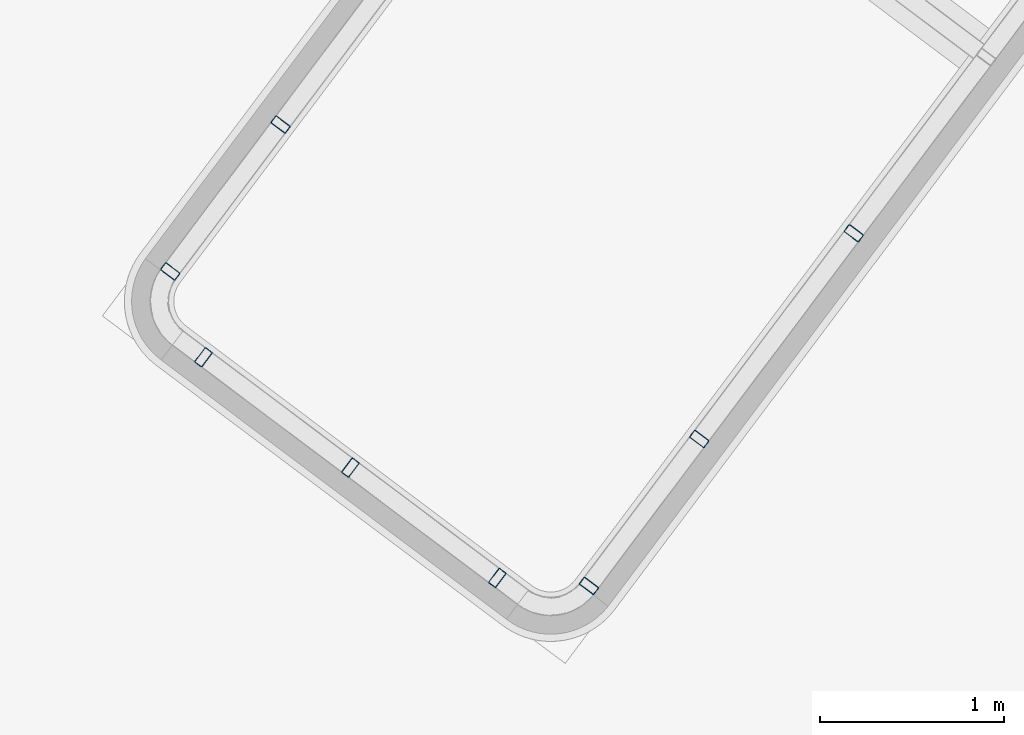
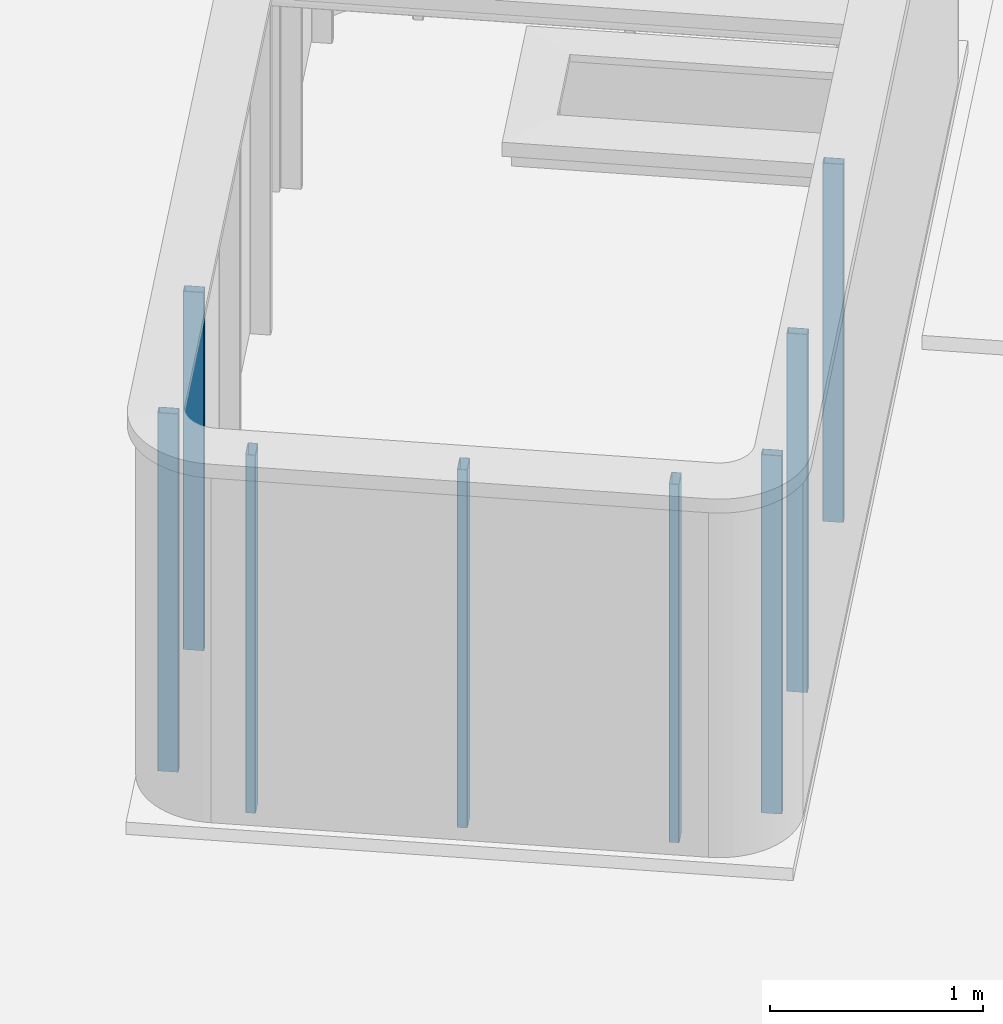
# One storey, part 2 of 28: 8 columns.
"""IFC2X3 building model written with IfcOpenShell, lengths in metres."""

import ifcopenshell
import ifcopenshell.guid

model = None  # the IFC model being written
_history = None  # IfcOwnerHistory: only IFC2X3 demands one
_inside = {}  # id of a spatial element -> (the spatial element, [elements in it])
_under = {}  # id of a project, library or spatial element -> (it, [spatial elements below it])
_declared = {}  # id of a project -> (the project, [libraries it declares])
_typed = {}  # id of a type object -> (the type object, [elements of that type])
_made_of = {}  # id of a material, layer set ... -> (it, [elements and type objects made of it])


def new_model(schema):
    """Start an empty IFC model of exactly this schema.

    Asked for "IFC4X3", IfcOpenShell would pick the latest addendum, in which some entities
    have other attributes; the version numbers below select the first issue.
    IFC2X3 requires an IfcOwnerHistory on every rooted entity: one is made here for all.
    """
    global model, _history
    if schema == "IFC4X3":
        model = ifcopenshell.file(schema_version=(4, 3, 0, 0))
    else:
        model = ifcopenshell.file(schema=schema)
    _inside.clear()
    _under.clear()
    _declared.clear()
    _typed.clear()
    _made_of.clear()
    _history = None
    if model.schema == "IFC2X3":
        org = make("IfcOrganization", Name="unknown")
        user = make(
            "IfcPersonAndOrganization",
            ThePerson=make("IfcPerson", FamilyName="unknown"),
            TheOrganization=org,
        )
        app = make(
            "IfcApplication",
            ApplicationDeveloper=org,
            Version="unknown",
            ApplicationFullName="unknown",
            ApplicationIdentifier="unknown",
        )
        _history = make(
            "IfcOwnerHistory",
            OwningUser=user,
            OwningApplication=app,
            ChangeAction="ADDED",
            CreationDate=0,
        )
    return model


def make(cls, **values):
    """One entity of the class cls with the attributes given. An attribute that is None is left unset."""
    return model.create_entity(
        cls, **{name: value for name, value in values.items() if value is not None}
    )


def entity(cls, *values):
    """Any entity or typed value of the class cls, its attributes in the order of the schema. None: left unset."""
    e = model.create_entity(cls)
    for i, value in enumerate(values):
        if value is not None:
            e[i] = value
    return e


def rooted(cls, **values):
    """An entity with a GlobalId (a new one), such as an element, a storey or a relation."""
    return make(cls, GlobalId=ifcopenshell.guid.new(), OwnerHistory=_history, **values)


def si_unit(unit_type, name, prefix=None):
    """IfcSIUnit, for example si_unit("LENGTHUNIT", "METRE", prefix="MILLI")."""
    return make("IfcSIUnit", UnitType=unit_type, Prefix=prefix, Name=name)


def converted_unit(unit_type, name, factor, base, dimensions=None, offset=None):
    """IfcConversionBasedUnit, such as the inch: factor (a typed value) times the base unit."""
    return make(
        "IfcConversionBasedUnit"
        if offset is None
        else "IfcConversionBasedUnitWithOffset",
        ConversionOffset=offset,
        Dimensions=None
        if dimensions is None
        else entity("IfcDimensionalExponents", *dimensions),
        UnitType=unit_type,
        Name=name,
        ConversionFactor=make(
            "IfcMeasureWithUnit", ValueComponent=factor, UnitComponent=base
        ),
    )


def derived_unit(unit_type, elements):
    """IfcDerivedUnit: a product of units, each with its exponent."""
    return make(
        "IfcDerivedUnit",
        Elements=[
            make("IfcDerivedUnitElement", Unit=unit, Exponent=power)
            for unit, power in elements
        ],
        UnitType=unit_type,
    )


def assignment(units):
    """IfcUnitAssignment: the units of a project."""
    return None if units is None else make("IfcUnitAssignment", Units=units)


def point(xyz):
    """IfcCartesianPoint."""
    return None if xyz is None else make("IfcCartesianPoint", Coordinates=xyz)


def direction(xyz):
    """IfcDirection."""
    return None if xyz is None else make("IfcDirection", DirectionRatios=xyz)


def frame(location, z_axis=None, x_axis=None):
    """IfcAxis2Placement3D, a coordinate frame: its origin and axes. An axis left out is left unset."""
    return make(
        "IfcAxis2Placement3D",
        Location=point(location),
        Axis=direction(z_axis),
        RefDirection=direction(x_axis),
    )


def frame_2d(location, x_axis=None):
    """IfcAxis2Placement2D, a coordinate frame in the plane: its origin and x axis."""
    return make(
        "IfcAxis2Placement2D", Location=point(location), RefDirection=direction(x_axis)
    )


def origin():
    """The frame at (0, 0, 0) with its axes left unset."""
    return frame((0.0, 0.0, 0.0))


def place(relative_to, where):
    """IfcLocalPlacement: puts the frame where relative to a parent placement (None: the world)."""
    return make(
        "IfcLocalPlacement", PlacementRelTo=relative_to, RelativePlacement=where
    )


def context(
    kind, dimensions, precision=None, world=None, true_north=None, identifier=None
):
    """IfcGeometricRepresentationContext, for example the 3D "Model" context."""
    return make(
        "IfcGeometricRepresentationContext",
        ContextIdentifier=identifier,
        ContextType=kind,
        CoordinateSpaceDimension=dimensions,
        Precision=precision,
        WorldCoordinateSystem=world,
        TrueNorth=true_north,
    )


def subcontext(parent, identifier, kind, view, scale=None):
    """IfcGeometricRepresentationSubContext, for example "Body" below "Model"."""
    return make(
        "IfcGeometricRepresentationSubContext",
        ContextIdentifier=identifier,
        ContextType=kind,
        ParentContext=parent,
        TargetScale=scale,
        TargetView=view,
    )


def project(units=None, contexts=None):
    """IfcProject with its units and contexts."""
    return rooted(
        "IfcProject",
        Name="project",
        RepresentationContexts=contexts,
        UnitsInContext=assignment(units),
    )


def spatial(cls, under=None, at=None, **own):
    """A site, building, storey or space (cls), placed at a placement, below another one or the project."""
    s = rooted(cls, ObjectPlacement=at, **own)
    if under is not None:
        _under.setdefault(under.id(), (under, []))[1].append(s)
    return s


def polyline(points):
    """IfcPolyline through the points."""
    return make("IfcPolyline", Points=[point(p) for p in points])


def circle_curve(where, radius):
    """IfcCircle in the frame where."""
    return make("IfcCircle", Position=where, Radius=radius)


def parameter(value):
    """IfcParameterValue: where a trimmed curve begins or ends, as a parameter of its basis curve."""
    return model.create_entity("IfcParameterValue", value)


def trimmed(basis, trim1, trim2, sense, master):
    """IfcTrimmedCurve: the piece of a basis curve between two trims."""
    return make(
        "IfcTrimmedCurve",
        BasisCurve=basis,
        Trim1=trim1,
        Trim2=trim2,
        SenseAgreement=sense,
        MasterRepresentation=master,
    )


def segment(curve, same_sense, transition):
    """IfcCompositeCurveSegment."""
    return make(
        "IfcCompositeCurveSegment",
        Transition=transition,
        SameSense=same_sense,
        ParentCurve=curve,
    )


def composite_curve(segments, self_intersect=None):
    """IfcCompositeCurve: segments joined end to end."""
    return make("IfcCompositeCurve", Segments=segments, SelfIntersect=self_intersect)


def outline(outer, holes=None, kind="AREA"):
    """IfcArbitraryClosedProfileDef: a profile drawn as a closed curve; with holes, ...WithVoids."""
    if holes is None:
        return make("IfcArbitraryClosedProfileDef", ProfileType=kind, OuterCurve=outer)
    return make(
        "IfcArbitraryProfileDefWithVoids",
        ProfileType=kind,
        OuterCurve=outer,
        InnerCurves=holes,
    )


def extrude(swept, where, along, depth):
    """IfcExtrudedAreaSolid: the profile swept, set in the frame where, extruded along a direction by depth."""
    return make(
        "IfcExtrudedAreaSolid",
        SweptArea=swept,
        Position=where,
        ExtrudedDirection=direction(along),
        Depth=depth,
    )


def shape(context_of_items, identifier, shape_type, items):
    """IfcShapeRepresentation: the items that make up one representation, for example the "Body"."""
    return make(
        "IfcShapeRepresentation",
        ContextOfItems=context_of_items,
        RepresentationIdentifier=identifier,
        RepresentationType=shape_type,
        Items=items,
    )


def source(mapping_origin, context_of_items, identifier, shape_type, items):
    """IfcRepresentationMap: a shape defined once, which mapped items show again and again."""
    return make(
        "IfcRepresentationMap",
        MappingOrigin=mapping_origin,
        MappedRepresentation=shape(context_of_items, identifier, shape_type, items),
    )


def transform(
    local_origin,
    x_axis=None,
    y_axis=None,
    z_axis=None,
    scale=None,
    scale2=None,
    scale3=None,
    uniform=True,
):
    """IfcCartesianTransformationOperator3D, or its non-uniform kind. x_axis, y_axis, z_axis: its Axis1, 2, 3."""
    if uniform:
        return make(
            "IfcCartesianTransformationOperator3D",
            Axis1=direction(x_axis),
            Axis2=direction(y_axis),
            LocalOrigin=point(local_origin),
            Scale=scale,
            Axis3=direction(z_axis),
        )
    return make(
        "IfcCartesianTransformationOperator3DnonUniform",
        Axis1=direction(x_axis),
        Axis2=direction(y_axis),
        LocalOrigin=point(local_origin),
        Scale=scale,
        Axis3=direction(z_axis),
        Scale2=scale2,
        Scale3=scale3,
    )


def mapped(mapping_source, mapping_target):
    """IfcMappedItem: shows the shape of a source again, moved by a transform."""
    return make(
        "IfcMappedItem", MappingSource=mapping_source, MappingTarget=mapping_target
    )


def material(Name=None, Category=None):
    """IfcMaterial."""
    return make("IfcMaterial", Name=Name, Category=Category)


def made_of(thing, what):
    """Note that an element or type object is made of a material, layer set ...; save() writes the relation."""
    if what is not None:
        _made_of.setdefault(what.id(), (what, []))[1].append(thing)
    return thing


def type_object(cls, material=None, **own):
    """A type object (cls), such as IfcWallType, which elements share."""
    return made_of(rooted(cls, **own), material)


def type_shapes(of_type, sources):
    """Give a type object the sources (RepresentationMaps) that its elements show as mapped items."""
    of_type.RepresentationMaps = sources


def element(
    cls,
    number,
    at=None,
    inside=None,
    cuts=None,
    type_object=None,
    material=None,
    context=None,
    identifier="Body",
    shape_type=None,
    held_by="IfcProductDefinitionShape",
    body=None,
    shapes=None,
    **own,
):
    """One element of the class cls, such as IfcWall. Its Tag is "e" and its number.

    at: its placement. inside: the storey or other place that contains it. cuts: it is an
    opening in that element (IfcRelVoidsElement). A single representation is given by context,
    identifier, shape_type and body (its items); several are given by shapes. held_by: the class
    of the entity that holds the representations. save() writes the other relations.
    """
    e = rooted(cls, Tag="e%d" % number, ObjectPlacement=at, **own)
    if body is not None:
        shapes = [shape(context, identifier, shape_type, body)]
    if shapes is not None:
        e.Representation = make(held_by, Representations=shapes)
    if inside is not None:
        _inside.setdefault(inside.id(), (inside, []))[1].append(e)
    if cuts is not None:
        rooted(
            "IfcRelVoidsElement", RelatingBuildingElement=cuts, RelatedOpeningElement=e
        )
    if type_object is not None:
        _typed.setdefault(type_object.id(), (type_object, []))[1].append(e)
    return made_of(e, material)


def aggregate(whole, parts):
    """IfcRelAggregates: a whole, such as a stair, and the parts it consists of."""
    return rooted("IfcRelAggregates", RelatingObject=whole, RelatedObjects=parts)


def save(model, path):
    """Write the relations noted so far, then the file.

    IfcRelAggregates (storeys below a building ...), IfcRelContainedInSpatialStructure (elements
    in a storey), IfcRelDefinesByType, IfcRelAssociatesMaterial and IfcRelDeclares: one each for
    every whole, place, type object, material and project.
    """
    for whole, parts in _under.values():
        aggregate(whole, parts)
    for where, things in _inside.values():
        rooted(
            "IfcRelContainedInSpatialStructure",
            RelatedElements=things,
            RelatingStructure=where,
        )
    for kind, things in _typed.values():
        rooted("IfcRelDefinesByType", RelatedObjects=things, RelatingType=kind)
    for what, things in _made_of.values():
        rooted("IfcRelAssociatesMaterial", RelatedObjects=things, RelatingMaterial=what)
    for by, libraries in _declared.values():
        rooted("IfcRelDeclares", RelatingContext=by, RelatedDefinitions=libraries)
    model.write(path)


model = new_model("IFC2X3")

# Units and contexts
model_context = context("Model", 3, precision=1e-05, world=origin(), true_north=direction((6.123031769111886e-17, 1.0)))
body_context = subcontext(model_context, "Body", "Model", "MODEL_VIEW")
ifc_project = project(units=[si_unit("LENGTHUNIT", "METRE"), si_unit("AREAUNIT", "SQUARE_METRE"), si_unit("VOLUMEUNIT", "CUBIC_METRE"), converted_unit("PLANEANGLEUNIT", "DEGREE", entity("IfcRatioMeasure", 0.017453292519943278), si_unit("PLANEANGLEUNIT", "RADIAN"), dimensions=[0, 0, 0, 0, 0, 0, 0]), si_unit("MASSUNIT", "GRAM", prefix="KILO"), derived_unit("MASSDENSITYUNIT", [(si_unit("MASSUNIT", "GRAM", prefix="KILO"), 1), (si_unit("LENGTHUNIT", "METRE"), -3)]), derived_unit("IONCONCENTRATIONUNIT", [(si_unit("MASSUNIT", "GRAM", prefix="KILO"), 1), (si_unit("LENGTHUNIT", "METRE"), -3)]), derived_unit("MOMENTOFINERTIAUNIT", [(si_unit("LENGTHUNIT", "METRE"), 4)]), si_unit("TIMEUNIT", "SECOND"), si_unit("FREQUENCYUNIT", "HERTZ"), si_unit("THERMODYNAMICTEMPERATUREUNIT", "DEGREE_CELSIUS"), derived_unit("THERMALTRANSMITTANCEUNIT", [(si_unit("MASSUNIT", "GRAM", prefix="KILO"), 1), (si_unit("THERMODYNAMICTEMPERATUREUNIT", "KELVIN"), -1), (si_unit("TIMEUNIT", "SECOND"), -3)]), derived_unit("THERMALCONDUCTANCEUNIT", [(si_unit("MASSUNIT", "GRAM", prefix="KILO"), 1), (si_unit("THERMODYNAMICTEMPERATUREUNIT", "KELVIN"), -1), (si_unit("TIMEUNIT", "SECOND"), -3), (si_unit("LENGTHUNIT", "METRE"), 1)]), derived_unit("VOLUMETRICFLOWRATEUNIT", [(si_unit("LENGTHUNIT", "METRE"), 3), (si_unit("TIMEUNIT", "SECOND"), -1)]), derived_unit("MASSFLOWRATEUNIT", [(si_unit("MASSUNIT", "GRAM", prefix="KILO"), 1), (si_unit("TIMEUNIT", "SECOND"), -1)]), derived_unit("ROTATIONALFREQUENCYUNIT", [(si_unit("TIMEUNIT", "SECOND"), -1)]), si_unit("ELECTRICCURRENTUNIT", "AMPERE"), si_unit("ELECTRICVOLTAGEUNIT", "VOLT"), si_unit("POWERUNIT", "WATT"), si_unit("FORCEUNIT", "NEWTON", prefix="KILO"), si_unit("ILLUMINANCEUNIT", "LUX"), si_unit("LUMINOUSFLUXUNIT", "LUMEN"), si_unit("LUMINOUSINTENSITYUNIT", "CANDELA"), derived_unit("USERDEFINED", [(si_unit("MASSUNIT", "GRAM", prefix="KILO"), -1), (si_unit("LENGTHUNIT", "METRE"), -2), (si_unit("TIMEUNIT", "SECOND"), 3), (si_unit("LUMINOUSFLUXUNIT", "LUMEN"), 1)]), derived_unit("USERDEFINED", [(si_unit("MASSUNIT", "GRAM", prefix="KILO"), 1), (si_unit("TIMEUNIT", "SECOND"), -3), (si_unit("LENGTHUNIT", "METRE"), 3), (si_unit("ELECTRICCURRENTUNIT", "AMPERE"), -2)]), derived_unit("SOUNDPOWERUNIT", [(si_unit("MASSUNIT", "GRAM", prefix="KILO"), 1), (si_unit("TIMEUNIT", "SECOND"), -3), (si_unit("LENGTHUNIT", "METRE"), 2)]), derived_unit("SOUNDPRESSUREUNIT", [(si_unit("MASSUNIT", "GRAM", prefix="KILO"), 1), (si_unit("LENGTHUNIT", "METRE"), -1), (si_unit("TIMEUNIT", "SECOND"), -2)]), derived_unit("LINEARVELOCITYUNIT", [(si_unit("LENGTHUNIT", "METRE"), 1), (si_unit("TIMEUNIT", "SECOND"), -1)]), si_unit("PRESSUREUNIT", "PASCAL"), derived_unit("USERDEFINED", [(si_unit("MASSUNIT", "GRAM", prefix="KILO"), 1), (si_unit("LENGTHUNIT", "METRE"), -2), (si_unit("TIMEUNIT", "SECOND"), -2)]), derived_unit("LINEARFORCEUNIT", [(si_unit("MASSUNIT", "GRAM", prefix="KILO"), 1), (si_unit("TIMEUNIT", "SECOND"), -2)]), derived_unit("PLANARFORCEUNIT", [(si_unit("MASSUNIT", "GRAM", prefix="KILO"), 1), (si_unit("LENGTHUNIT", "METRE"), -1), (si_unit("TIMEUNIT", "SECOND"), -2)]), derived_unit("SPECIFICHEATCAPACITYUNIT", [(si_unit("THERMODYNAMICTEMPERATUREUNIT", "KELVIN"), -1), (si_unit("LENGTHUNIT", "METRE"), 2), (si_unit("TIMEUNIT", "SECOND"), -2)]), derived_unit("HEATINGVALUEUNIT", [(si_unit("LENGTHUNIT", "METRE"), 2), (si_unit("TIMEUNIT", "SECOND"), -2)]), derived_unit("VAPORPERMEABILITYUNIT", [(si_unit("LENGTHUNIT", "METRE"), -1), (si_unit("TIMEUNIT", "SECOND"), 1)]), derived_unit("DYNAMICVISCOSITYUNIT", [(si_unit("MASSUNIT", "GRAM", prefix="KILO"), 1), (si_unit("TIMEUNIT", "SECOND"), -1), (si_unit("LENGTHUNIT", "METRE"), -1)]), derived_unit("THERMALEXPANSIONCOEFFICIENTUNIT", [(si_unit("THERMODYNAMICTEMPERATUREUNIT", "KELVIN"), -1)]), derived_unit("MODULUSOFELASTICITYUNIT", [(si_unit("MASSUNIT", "GRAM", prefix="KILO"), 1), (si_unit("LENGTHUNIT", "METRE"), -1), (si_unit("TIMEUNIT", "SECOND"), -2)]), derived_unit("ISOTHERMALMOISTURECAPACITYUNIT", [(si_unit("LENGTHUNIT", "METRE"), 3), (si_unit("MASSUNIT", "GRAM", prefix="KILO"), -1)]), derived_unit("MOISTUREDIFFUSIVITYUNIT", [(si_unit("TIMEUNIT", "SECOND"), -1), (si_unit("LENGTHUNIT", "METRE"), 2)])], contexts=[model_context])

# Site, building, storey
site_placement = place(None, frame((0.0, 0.0, 235.0), z_axis=(0.0, 0.0, 1.0), x_axis=(-0.7996477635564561, 0.6004693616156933, 0.0)))
site = spatial("IfcSite", under=ifc_project, at=site_placement, Name="Default", CompositionType="ELEMENT")
building_placement = place(site_placement, origin())
building = spatial("IfcBuilding", under=site, at=building_placement, CompositionType="ELEMENT")
storey_placement = place(building_placement, frame((0.0, 0.0, 3.400000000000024)))
storey = spatial("IfcBuildingStorey", under=building, at=storey_placement, Name="PC- Coberta STR", CompositionType="ELEMENT", Elevation=3.400000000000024)

# Columns
ifc_material = material(Name="Metal - Acero - 345 MPa")
column_type = type_object("IfcColumnType", Name="STR- P- Acer- RHS- Rectangular- T1:100 x 50RHS", PredefinedType="COLUMN", material=ifc_material)
shared_shape = source(origin(), body_context, "Body", "SweptSolid", [
    extrude(outline(composite_curve([segment(polyline([(-0.01900000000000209, -0.04999999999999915), (0.019000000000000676, -0.04999999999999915)]), True, "CONTINUOUS"), segment(trimmed(circle_curve(frame_2d((0.019000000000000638, -0.04400000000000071), x_axis=(-1.0, 0.0)), 0.005999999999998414), [parameter(90.00000000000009)], [parameter(180.0000000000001)], True, "PARAMETER"), True, "CONTINUOUS"), segment(polyline([(0.024999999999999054, -0.044000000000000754), (0.02499999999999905, 0.044000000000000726)]), True, "CONTINUOUS"), segment(trimmed(circle_curve(frame_2d((0.018999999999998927, 0.044000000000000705), x_axis=(-1.0, 0.0)), 0.006000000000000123), [parameter(179.9999999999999)], [parameter(269.99999999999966)], True, "PARAMETER"), True, "CONTINUOUS"), segment(polyline([(0.018999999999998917, 0.05000000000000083), (-0.01899999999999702, 0.050000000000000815)]), True, "CONTINUOUS"), segment(trimmed(circle_curve(frame_2d((-0.018999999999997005, 0.043999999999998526), x_axis=(-1.0, 0.0)), 0.006000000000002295), [parameter(269.99999999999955)], [parameter(359.9999999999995)], True, "PARAMETER"), True, "CONTINUOUS"), segment(polyline([(-0.024999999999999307, 0.04399999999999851), (-0.024999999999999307, -0.04400000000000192)]), True, "CONTINUOUS"), segment(trimmed(circle_curve(frame_2d((-0.019000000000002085, -0.04400000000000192), x_axis=(-1.0, 0.0)), 0.005999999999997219), [parameter(359.9999999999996)], [parameter(89.99999999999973)], True, "PARAMETER"), True, "CONTINUOUS")], self_intersect=False), holes=[composite_curve([segment(trimmed(circle_curve(frame_2d((-0.019000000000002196, -0.044000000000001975), x_axis=(-1.0, 0.0)), 0.0029999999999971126), [parameter(0.0)], [parameter(90.00000000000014)], True, "PARAMETER"), False, "CONTINUOUS"), segment(polyline([(-0.021999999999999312, -0.044000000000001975), (-0.021999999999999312, 0.04400000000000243)]), True, "CONTINUOUS"), segment(trimmed(circle_curve(frame_2d((-0.019000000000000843, 0.04400000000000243), x_axis=(-1.0, 0.0)), 0.00299999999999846), [parameter(269.99999999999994)], [parameter(0.0)], True, "PARAMETER"), False, "CONTINUOUS"), segment(polyline([(-0.01900000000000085, 0.0470000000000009), (0.01899999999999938, 0.04700000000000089)]), True, "CONTINUOUS"), segment(trimmed(circle_curve(frame_2d((0.018999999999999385, 0.04399999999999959), x_axis=(-1.0, 0.0)), 0.0030000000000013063), [parameter(179.99999999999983)], [parameter(270.0)], True, "PARAMETER"), False, "CONTINUOUS"), segment(polyline([(0.022000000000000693, 0.04399999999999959), (0.022000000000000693, -0.04399999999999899)]), True, "CONTINUOUS"), segment(trimmed(circle_curve(frame_2d((0.019000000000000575, -0.043999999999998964), x_axis=(-1.0, 0.0)), 0.0030000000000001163), [parameter(90.00000000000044)], [parameter(180.0000000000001)], True, "PARAMETER"), False, "CONTINUOUS"), segment(polyline([(0.019000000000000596, -0.04699999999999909), (-0.019000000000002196, -0.04699999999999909)]), True, "CONTINUOUS")], self_intersect=False)]), frame((0.02658749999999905, 0.051587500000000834, 0.0), z_axis=(0.0, 0.0, 1.0), x_axis=(-1.0, 0.0, 0.0)), (0.0, 0.0, 1.0), 2.05),
])
type_shapes(column_type, [shared_shape])
for number, where, z_axis, x_axis, name in (
    (1, (47.10845862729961, -32.26767308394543, 0.4), (0.0, 0.0, 1.0), (0.0, -1.0, 0.0), "STR- P- Acer- RHS- Rectangular- T1:100 x 50RHS"),
    (2, (46.76163360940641, -30.977673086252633, 0.4), (0.0, 0.0, 1.0), (-1.0, 0.0, 0.0), "STR- P- Acer- RHS- Rectangular- T1:100 x 50RHS"),
    (3, (45.7616336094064, -30.977673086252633, 0.4), (0.0, 0.0, 1.0), (-1.0, 0.0, 0.0), "STR- P- Acer- RHS- Rectangular- T1:100 x 50RHS"),
    (4, (44.761633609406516, -30.977673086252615, 0.4), (0.0, 0.0, 1.0), (-1.0, 0.0, 0.0), "STR- P- Acer- RHS- Rectangular- T1:100 x 50RHS"),
    (5, (47.10845862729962, -31.267673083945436, 0.4), (0.0, 0.0, 1.0), (0.0, -1.0, 0.0), "STR- P- Acer- RHS- Rectangular- T1:100 x 50RHS"),
    (6, (44.25845855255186, -32.26767308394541, 0.4), (0.0, 0.0, 1.0), (0.0, -1.0, 0.0), "STR- P- Acer- RHS- Rectangular- T1:100 x 50RHS"),
    (7, (44.258458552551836, -33.66767308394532, 0.4), (0.0, 0.0, 1.0), (0.0, -1.0, 0.0), "STR- P- Acer- RHS- Rectangular- T1:100 x 50RHS"),
    (8, (44.25845855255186, -31.26767308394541, 0.4), (0.0, 0.0, 1.0), (0.0, -1.0, 0.0), "STR- P- Acer- RHS- Rectangular- T1:100 x 50RHS"),
):
    element("IfcColumn", number, at=place(storey_placement, frame(where, z_axis=z_axis, x_axis=x_axis)), inside=storey, type_object=column_type, material=ifc_material, Name=name, ObjectType="STR- P- Acer- RHS- Rectangular- T1:100 x 50RHS", context=body_context, shape_type="MappedRepresentation", body=[
        mapped(shared_shape, transform((0.0, 0.0, 0.0), scale=1.0)),
    ])

save(model, "model.ifc")
